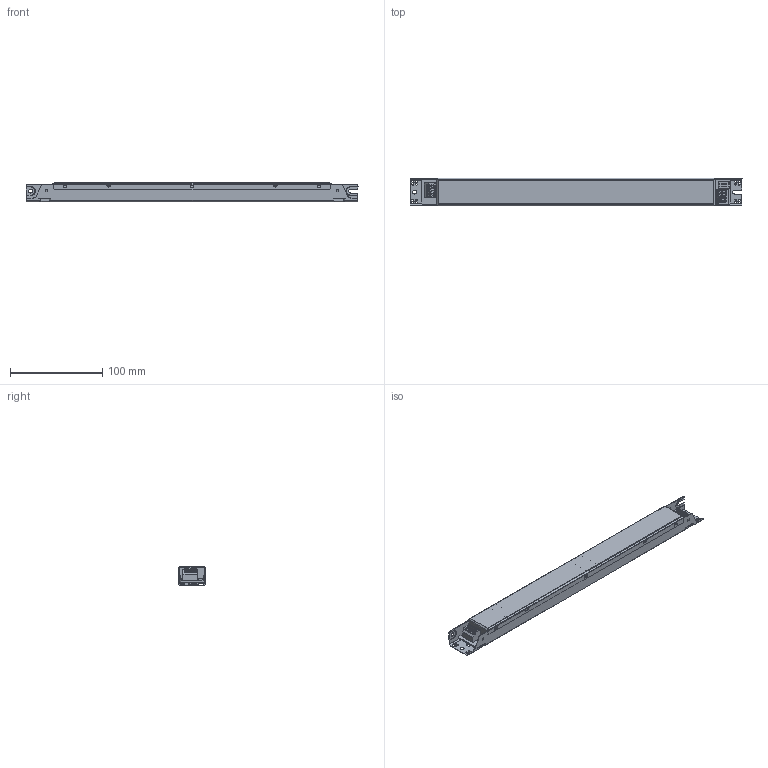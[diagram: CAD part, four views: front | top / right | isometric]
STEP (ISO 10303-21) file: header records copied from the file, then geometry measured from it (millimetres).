
FILE_DESCRIPTION (( 'STEP AP214' ), '1' );
FILE_NAME ('M10.STEP', '2017-12-11T14:55:25', ( 'Utente' ), ( '' ), 'SwSTEP 2.0', 'SolidWorks 2016', '' );
FILE_SCHEMA (( 'AUTOMOTIVE_DESIGN' ));
Length unit declared in the file: millimetre
Products named in the file (1): M10
Bounding box: 359 x 30.1 x 21 mm (x, y, z)
Volume: 68895.2 mm3; surface area: 114209.8 mm2
Topology: 322 solids, 322 shells, 4944 faces, 11858 edges, 7627 vertices
Faces by surface type: plane 3294, cylinder 1102, bspline 532, cone 16
Entity records: 215259 total; most frequent: CARTESIAN_POINT 44577, ORIENTED_EDGE 23548, DIRECTION 22311, EDGE_CURVE 11774, LINE 8427, VECTOR 8427, VERTEX_POINT 7627, AXIS2_PLACEMENT_3D 6942
